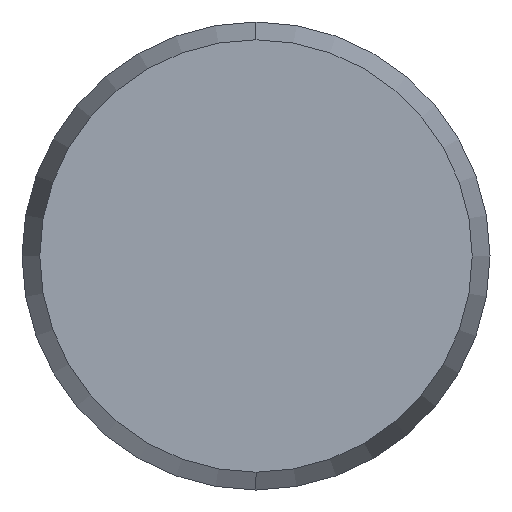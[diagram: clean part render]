
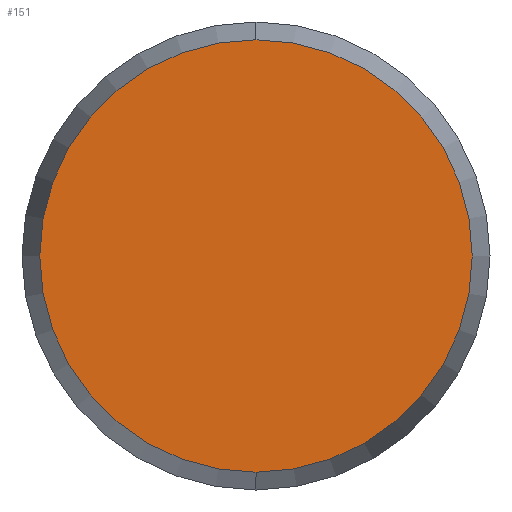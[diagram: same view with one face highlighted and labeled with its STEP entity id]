
A CAD part, left-side view. The second image highlights one B-rep face of the part: STEP entity #151.
In plain terms, the highlighted planar face has unit normal (-1, 0, 0).
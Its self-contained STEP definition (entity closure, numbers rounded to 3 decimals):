
#8 = DIRECTION ( 'NONE',  ( 1., 0., 0. ) ) ;
#10 = PLANE ( 'NONE',  #12 ) ;
#11 = DIRECTION ( 'NONE',  ( 0., 0., -1. ) ) ;
#12 = AXIS2_PLACEMENT_3D ( 'NONE', #14, #8, #11 ) ;
#13 = FACE_OUTER_BOUND ( 'NONE', #154, .T. ) ;
#14 = CARTESIAN_POINT ( 'NONE',  ( -9., 0., 0. ) ) ;
#75 = VERTEX_POINT ( 'NONE', #128 ) ;
#79 = EDGE_CURVE ( 'NONE', #80, #75, #148, .T. ) ;
#80 = VERTEX_POINT ( 'NONE', #144 ) ;
#128 = CARTESIAN_POINT ( 'NONE',  ( -9., 0., -5.544 ) ) ;
#132 = CARTESIAN_POINT ( 'NONE',  ( -9., 0., 0. ) ) ;
#141 = CARTESIAN_POINT ( 'NONE',  ( -9., 0., 0. ) ) ;
#144 = CARTESIAN_POINT ( 'NONE',  ( -9., 0., 5.544 ) ) ;
#145 = DIRECTION ( 'NONE',  ( 0., 0., -1. ) ) ;
#146 = DIRECTION ( 'NONE',  ( 1., 0., 0. ) ) ;
#147 = AXIS2_PLACEMENT_3D ( 'NONE', #132, #146, #145 ) ;
#148 = CIRCLE ( 'NONE', #147, 5.544 ) ;
#149 = EDGE_CURVE ( 'NONE', #75, #80, #244, .T. ) ;
#151 = ADVANCED_FACE ( 'NONE', ( #13 ), #10, .F. ) ;
#154 = EDGE_LOOP ( 'NONE', ( #155, #156 ) ) ;
#155 = ORIENTED_EDGE ( 'NONE', *, *, #79, .F. ) ;
#156 = ORIENTED_EDGE ( 'NONE', *, *, #149, .F. ) ;
#174 = AXIS2_PLACEMENT_3D ( 'NONE', #141, #183, #248 ) ;
#183 = DIRECTION ( 'NONE',  ( 1., 0., 0. ) ) ;
#244 = CIRCLE ( 'NONE', #174, 5.544 ) ;
#248 = DIRECTION ( 'NONE',  ( 0., 0., -1. ) ) ;
